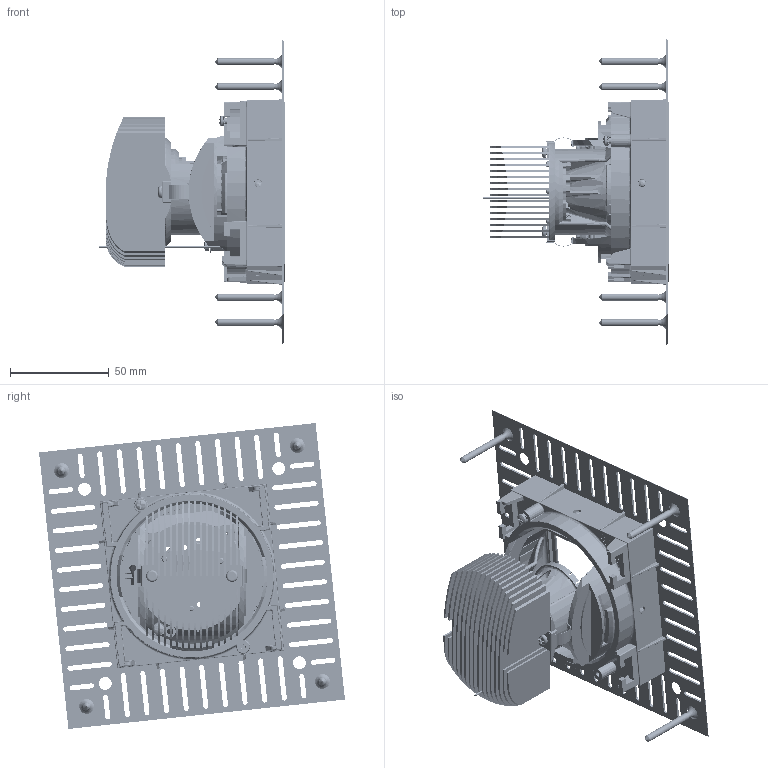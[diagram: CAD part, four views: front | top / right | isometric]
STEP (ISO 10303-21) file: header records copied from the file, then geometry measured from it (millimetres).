
FILE_DESCRIPTION(('CATIA V5 STEP Exchange'),'2;1');
FILE_NAME('C:\Users\stefano.giovinetto\Desktop\X.QP1C - M PRO Adj Square Trimless Recessed.stp','2020-10-29T09:26:45+00:00',('none'),('none'),'CATIA Version 5 Release 20 SP 7 (IN-10)','CATIA V5 STEP AP203','none');
FILE_SCHEMA(('CONFIG_CONTROL_DESIGN'));
Products named in the file (1): 0.0000_AllCATPart
Bounding box: 94.49 x 155.1 x 155.1 mm (x, y, z)
Volume: 152394.6 mm3; surface area: 202527.8 mm2
Topology: 36 solids, 250 shells, 9480 faces, 27276 edges, 18166 vertices
Faces by surface type: plane 6748, cylinder 1460, bspline 432, cone 279, torus 261, extrusion 207, sphere 85, revolution 8
Entity records: 360000 total; most frequent: CARTESIAN_POINT 128123, ORIENTED_EDGE 52932, DIRECTION 37821, EDGE_CURVE 27113, VECTOR 18457, LINE 18250, VERTEX_POINT 18166, AXIS2_PLACEMENT_3D 11003
